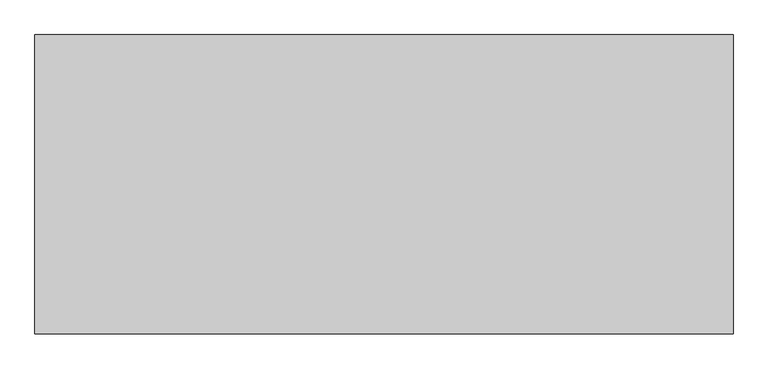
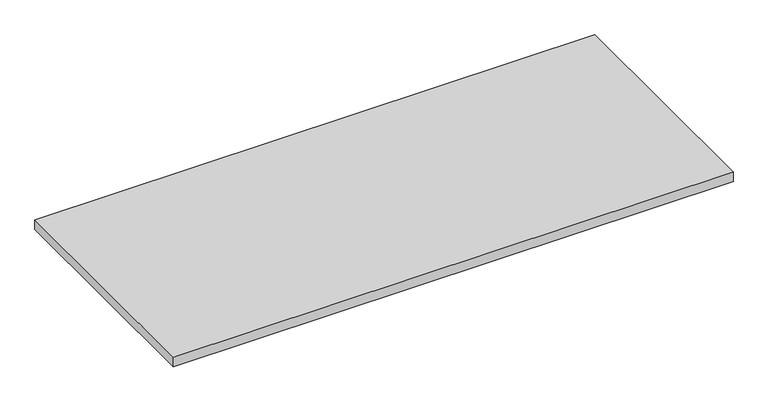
"""IFC4 building model written with IfcOpenShell, lengths in millimetres: furniture geometry, Steelcase - Universal Storage - Adjustable Steel Standard Shelf : 18D x 42W."""

from ifc_helpers import new_model, si_unit, frame, origin, place, context, project, spatial, polyline, outline, extrude, source, transform, mapped, element, save


def furniture_e60ed018(model_context):
    return source(origin(), model_context, "Body", "SweptSolid", [
        extrude(outline(polyline([(1066.8, 0.0), (1066.8, -457.2), (0.0, -457.2), (0.0, 0.0), (1066.8, 0.0)])), frame((0.0, 0.0, 285.75), z_axis=(0.0, 0.0, 1.0), x_axis=(1.0, 0.0, 0.0)), (0.0, 0.0, 1.0), 19.05),
    ])


if __name__ == "__main__":
    model = new_model("IFC4")
    model_context = context("Model", 3, world=origin())
    ifc_project = project(units=[si_unit("LENGTHUNIT", "METRE", prefix="MILLI")], contexts=[model_context])
    site = spatial("IfcSite", under=ifc_project)
    building = spatial("IfcBuilding", under=site)
    placement = place(None, origin())
    furniture_shape = furniture_e60ed018(model_context)
    element("IfcFurniture", 1, ObjectType="Steelcase - Universal Storage - Adjustable Steel Standard Shelf : 18D x 42W", at=placement, inside=building, context=model_context, shape_type="MappedRepresentation", body=[
        mapped(furniture_shape, transform((0.0, 0.0, 0.0), x_axis=(1.0, 0.0, 0.0), y_axis=(0.0, 1.0, 0.0), z_axis=(0.0, 0.0, 1.0))),
    ])
    save(model, "model.ifc")
